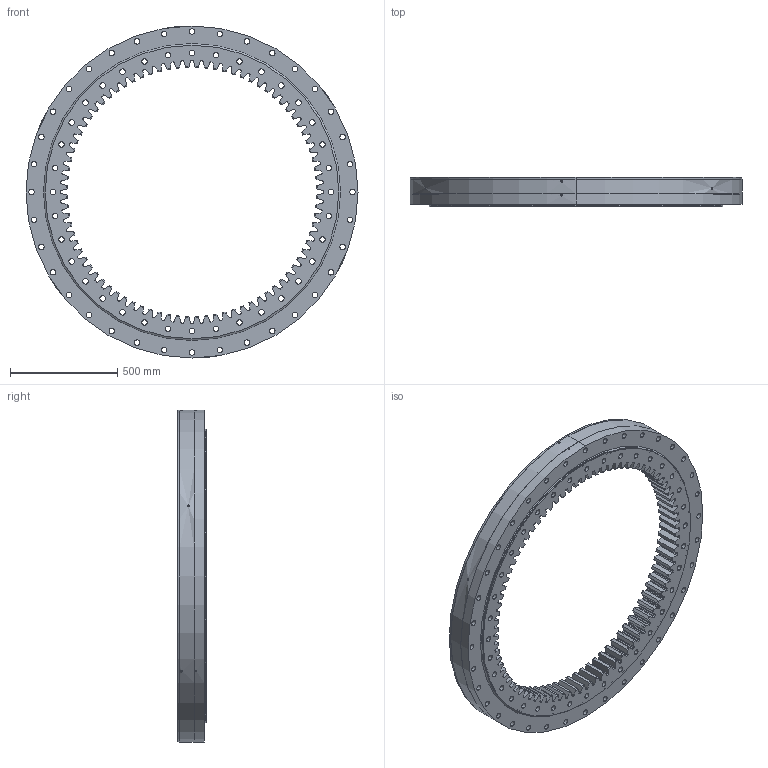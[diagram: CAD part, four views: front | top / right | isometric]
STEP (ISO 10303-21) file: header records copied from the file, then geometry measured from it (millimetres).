
FILE_DESCRIPTION (( 'STEP AP214' ), '1' );
FILE_NAME ('SM3320-1-1547AA.STEP', '2022-11-24T07:47:18', ( '' ), ( '' ), 'SwSTEP 2.0', 'SolidWorks 2020', '' );
FILE_SCHEMA (( 'AUTOMOTIVE_DESIGN' ));
Length unit declared in the file: millimetre
Products named in the file (1): SM3320-1-1547AA
Bounding box: 1547 x 135 x 1547 mm (x, y, z)
Volume: 84482897.2 mm3; surface area: 6242475.6 mm2
Topology: 6 solids, 6 shells, 1034 faces, 2996 edges, 1984 vertices
Faces by surface type: cylinder 553, cone 198, bspline 168, plane 115
Entity records: 38215 total; most frequent: CARTESIAN_POINT 11145, ORIENTED_EDGE 5968, DIRECTION 5256, EDGE_CURVE 2984, AXIS2_PLACEMENT_3D 2125, VERTEX_POINT 1984, EDGE_LOOP 1296, CIRCLE 1258
